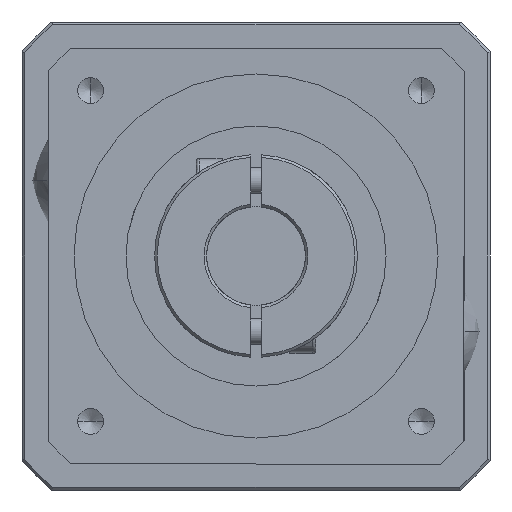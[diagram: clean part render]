
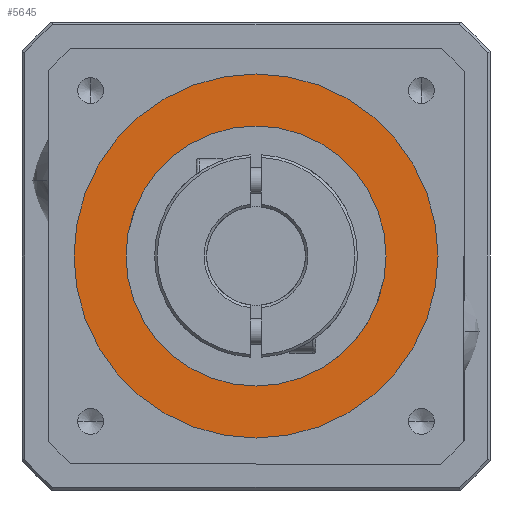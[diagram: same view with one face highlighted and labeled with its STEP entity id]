
A CAD part, left-side view. The second image highlights one B-rep face of the part: STEP entity #5645.
In plain terms, the highlighted planar face has unit normal (-1, 0, 0) as drawn and (0, 0, 1) by its records, which use the part's own axes.
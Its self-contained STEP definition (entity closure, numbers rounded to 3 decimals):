
#33 = CIRCLE ( 'NONE', #4625, 35. ) ;
#151 = PLANE ( 'NONE',  #4995 ) ;
#240 = AXIS2_PLACEMENT_3D ( 'NONE', #7915, #5196, #8664 ) ;
#506 = CARTESIAN_POINT ( 'NONE',  ( 0., 0., 33.5 ) ) ;
#545 = CARTESIAN_POINT ( 'NONE',  ( 25., 0., 33.5 ) ) ;
#1123 = CARTESIAN_POINT ( 'NONE',  ( 0., 0., 33.5 ) ) ;
#1243 = DIRECTION ( 'NONE',  ( 1., 0., 0. ) ) ;
#1245 = CARTESIAN_POINT ( 'NONE',  ( -35., 0., 33.5 ) ) ;
#1623 = AXIS2_PLACEMENT_3D ( 'NONE', #6036, #2435, #7373 ) ;
#1683 = EDGE_LOOP ( 'NONE', ( #8191, #7999 ) ) ;
#2040 = AXIS2_PLACEMENT_3D ( 'NONE', #6118, #7428, #2571 ) ;
#2281 = CIRCLE ( 'NONE', #1623, 25. ) ;
#2430 = VERTEX_POINT ( 'NONE', #1245 ) ;
#2435 = DIRECTION ( 'NONE',  ( 0., 0., -1. ) ) ;
#2571 = DIRECTION ( 'NONE',  ( 1., 0., 0. ) ) ;
#2869 = EDGE_CURVE ( 'NONE', #4466, #2961, #2281, .T. ) ;
#2887 = CIRCLE ( 'NONE', #240, 35. ) ;
#2961 = VERTEX_POINT ( 'NONE', #545 ) ;
#3049 = CARTESIAN_POINT ( 'NONE',  ( 35., 0., 33.5 ) ) ;
#3090 = FACE_OUTER_BOUND ( 'NONE', #1683, .T. ) ;
#3241 = EDGE_CURVE ( 'NONE', #2430, #7552, #2887, .T. ) ;
#3323 = ORIENTED_EDGE ( 'NONE', *, *, #7145, .T. ) ;
#3609 = EDGE_CURVE ( 'NONE', #7552, #2430, #33, .T. ) ;
#4466 = VERTEX_POINT ( 'NONE', #6807 ) ;
#4625 = AXIS2_PLACEMENT_3D ( 'NONE', #506, #6842, #7574 ) ;
#4995 = AXIS2_PLACEMENT_3D ( 'NONE', #1123, #8728, #1243 ) ;
#5196 = DIRECTION ( 'NONE',  ( 0., 0., 1. ) ) ;
#5416 = CIRCLE ( 'NONE', #2040, 25. ) ;
#5645 = ADVANCED_FACE ( 'NONE', ( #3090, #8421 ), #151, .T. ) ;
#5943 = ORIENTED_EDGE ( 'NONE', *, *, #2869, .T. ) ;
#6036 = CARTESIAN_POINT ( 'NONE',  ( 0., 0., 33.5 ) ) ;
#6118 = CARTESIAN_POINT ( 'NONE',  ( 0., 0., 33.5 ) ) ;
#6807 = CARTESIAN_POINT ( 'NONE',  ( -25., 0., 33.5 ) ) ;
#6842 = DIRECTION ( 'NONE',  ( 0., 0., 1. ) ) ;
#7145 = EDGE_CURVE ( 'NONE', #2961, #4466, #5416, .T. ) ;
#7373 = DIRECTION ( 'NONE',  ( 1., 0., 0. ) ) ;
#7428 = DIRECTION ( 'NONE',  ( 0., 0., -1. ) ) ;
#7552 = VERTEX_POINT ( 'NONE', #3049 ) ;
#7574 = DIRECTION ( 'NONE',  ( 1., 0., 0. ) ) ;
#7915 = CARTESIAN_POINT ( 'NONE',  ( 0., 0., 33.5 ) ) ;
#7999 = ORIENTED_EDGE ( 'NONE', *, *, #3241, .T. ) ;
#8191 = ORIENTED_EDGE ( 'NONE', *, *, #3609, .T. ) ;
#8421 = FACE_BOUND ( 'NONE', #8983, .T. ) ;
#8664 = DIRECTION ( 'NONE',  ( 1., 0., 0. ) ) ;
#8728 = DIRECTION ( 'NONE',  ( 0., 0., 1. ) ) ;
#8983 = EDGE_LOOP ( 'NONE', ( #3323, #5943 ) ) ;
